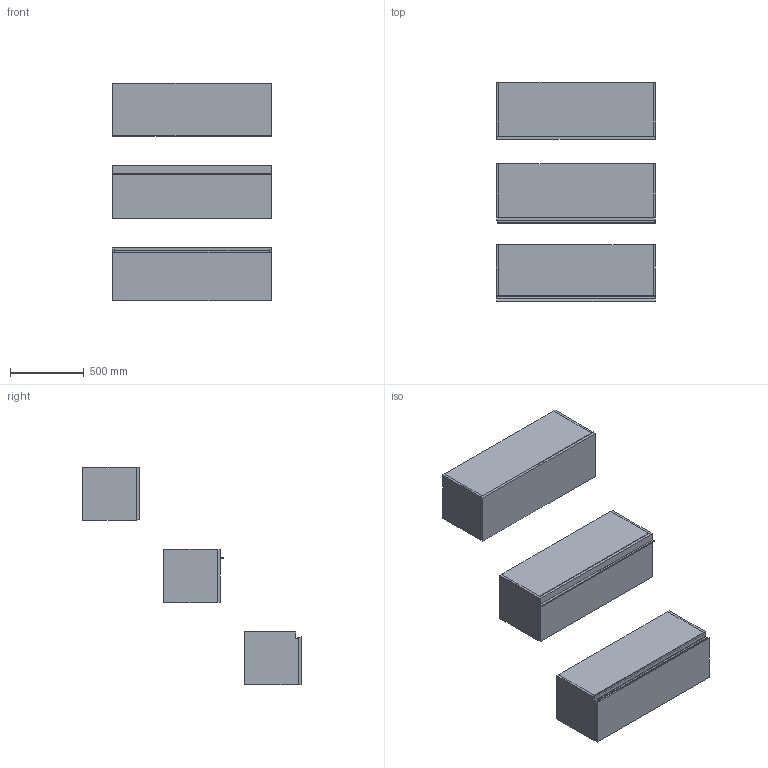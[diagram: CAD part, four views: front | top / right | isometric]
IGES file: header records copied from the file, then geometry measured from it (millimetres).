
Start section: Data from Parasolid IGES Translator 19.0.9, Copyright(c) 2006 Siemens PL M Software. All Rights Reserved.
Global section: file name: noorth-SI-H 36 D 38,8 W 108_8336.igs; native system: By Siemens PLM Incorporated; preprocessor: XPlus GENERIC/IGES 19.0.9; author: Noname; organization: Noname; date: 20200530.133129; units: metre
Bounding box: 1081.02 x 1485.1 x 1480 mm (x, y, z)
Volume: 73416366.8 mm3; surface area: 11210564 mm2
Topology: 20 solids, 20 shells, 178 faces, 382 edges, 234 vertices
Faces by surface type: plane 134, extrusion 16, bspline 16, cylinder 12
